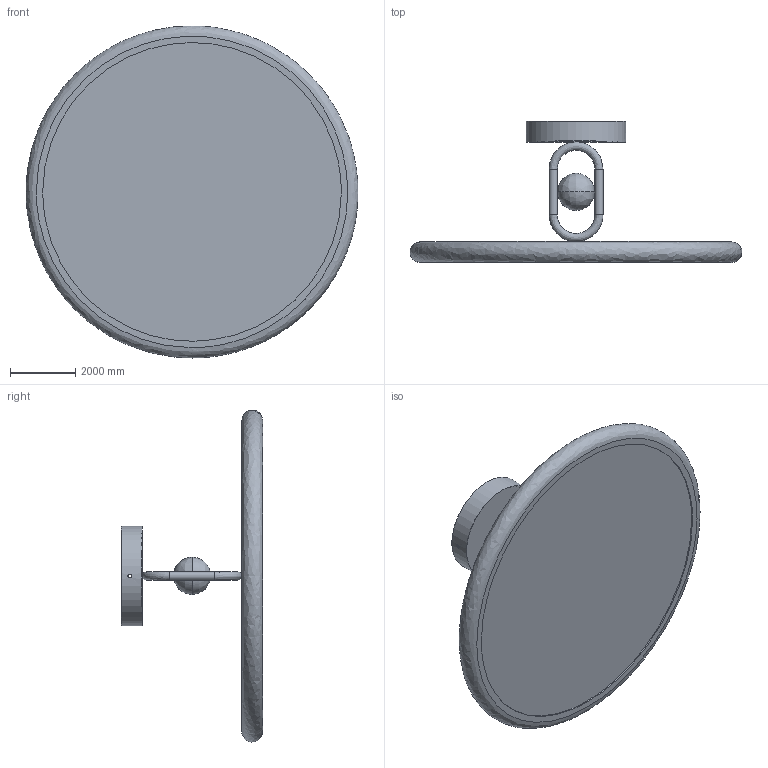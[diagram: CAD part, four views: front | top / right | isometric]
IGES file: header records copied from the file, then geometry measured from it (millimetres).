
Global section: file name: Envostar Ceiling Lamp-D15.7″,4; native system: 8HAutoCAD 2022 - 简体中文 (Simplified Chinese); preprocessor: Autodesk Translation Framework DWG producer (atf_dwg_producer); organization: unknown; date: 20260312.111815; units: inch
Bounding box: 10154.38 x 4318.5 x 10154.75 mm (x, y, z)
Volume: 7354442176.4 mm3; surface area: 391092579.9 mm2
Topology: 6 solids, 6 shells, 25 faces, 50 edges, 36 vertices
Faces by surface type: bspline 25
